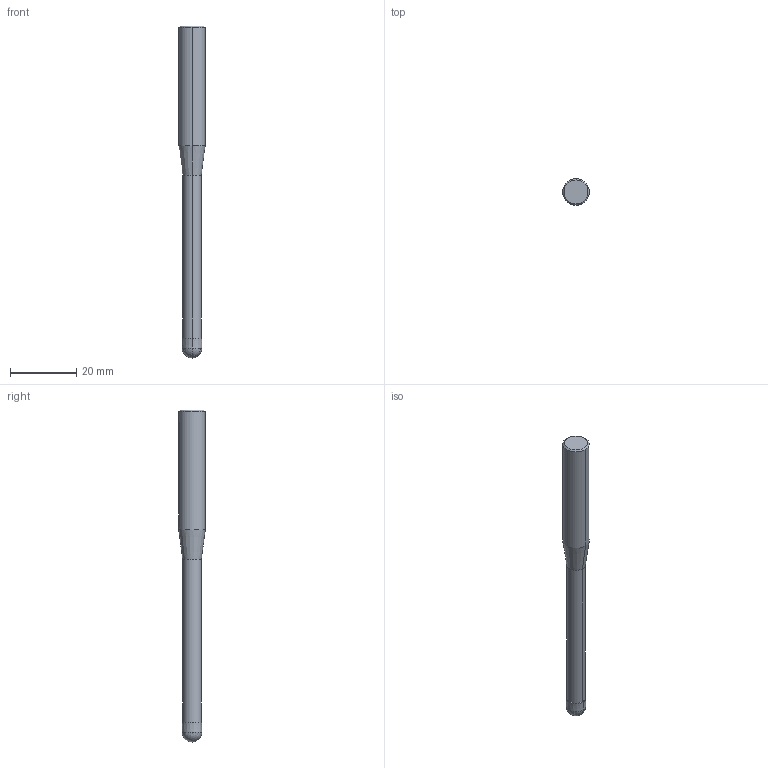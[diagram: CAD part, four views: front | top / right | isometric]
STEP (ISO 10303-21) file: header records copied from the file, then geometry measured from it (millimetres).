
FILE_DESCRIPTION(('no description'),'unknown implementation level');
FILE_NAME('solidbQUuozPKdA2WV5chAKrMMOcwzKY_1.STP',' ',('CIMSOURCE GmbH'),('CADClick - KiM GmbH - www.kimweb.de'),'unknown preprocess','ACIS','unknown authorization');
FILE_SCHEMA(('automotive_design'));
Length unit declared in the file: millimetre
Products named in the file (2): NOCUT; CUT
Bounding box: 8 x 8 x 100 mm (x, y, z)
Volume: 3485.7 mm3; surface area: 2179.5 mm2
Topology: 2 solids, 2 shells, 33 faces, 82 edges, 48 vertices
Faces by surface type: cylinder 12, cone 10, plane 9, sphere 2
Entity records: 2061 total; most frequent: CARTESIAN_POINT 389, DIRECTION 165, STYLED_ITEM 157, PRESENTATION_STYLE_ASSIGNMENT 157, COLOUR_RGB 157, ORIENTED_EDGE 148, EDGE_CURVE 74, CURVE_STYLE 74
